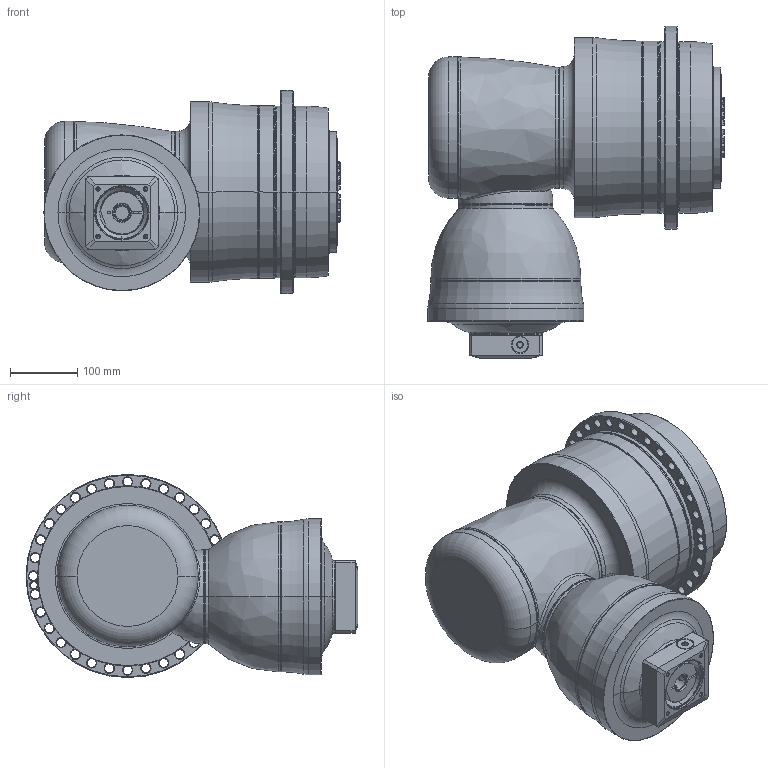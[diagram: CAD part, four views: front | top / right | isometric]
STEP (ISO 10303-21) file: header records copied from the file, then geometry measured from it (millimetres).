
FILE_DESCRIPTION((''),'2;1');
FILE_NAME('APCK255_4ST_24-P0409510201_ASM','2018-05-15T',('d01226'),(''),'PRO/ENGINEER BY PARAMETRIC TECHNOLOGY CORPORATION, 2008410','PRO/ENGINEER BY PARAMETRIC TECHNOLOGY CORPORATION, 2008410','');
FILE_SCHEMA(('CONFIG_CONTROL_DESIGN'));
Length unit declared in the file: millimetre
Products named in the file (13): P1008600002; P1832700001; P0278701003; P0359770103; P1211700001; P1315600001; P1007601001; P1317610001; P0409510201; P0503500010; P0912550001; 21711418017; APCK255_4ST_24-P0409510201_ASM
Assembly tree (12 placements, depth 2):
  APCK255_4ST_24-P0409510201_ASM
    P1008600002
    P1832700001
    P0278701003
    P0359770103
    P1211700001
    P1315600001
    P1007601001
    P1317610001
    P0409510201
    P0503500010
    P0912550001
    21711418017
Bounding box: 440.6 x 493.5 x 302 mm (x, y, z)
Volume: 23897994.8 mm3; surface area: 1371412.3 mm2
Topology: 13 solids, 25 shells, 812 faces, 1954 edges, 1190 vertices
Faces by surface type: cone 269, cylinder 240, plane 138, torus 128, bspline 35, sphere 2
Entity records: 31312 total; most frequent: CARTESIAN_POINT 11850, DIRECTION 4359, ORIENTED_EDGE 3830, EDGE_CURVE 1940, AXIS2_PLACEMENT_3D 1912, VERTEX_POINT 1190, CIRCLE 1098, EDGE_LOOP 932
